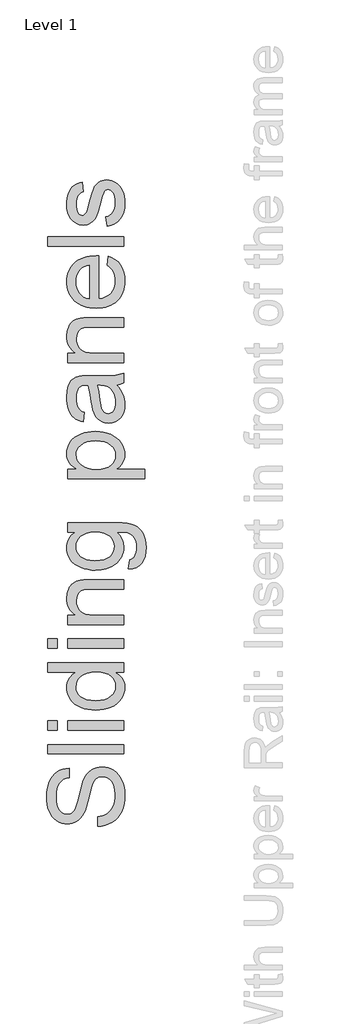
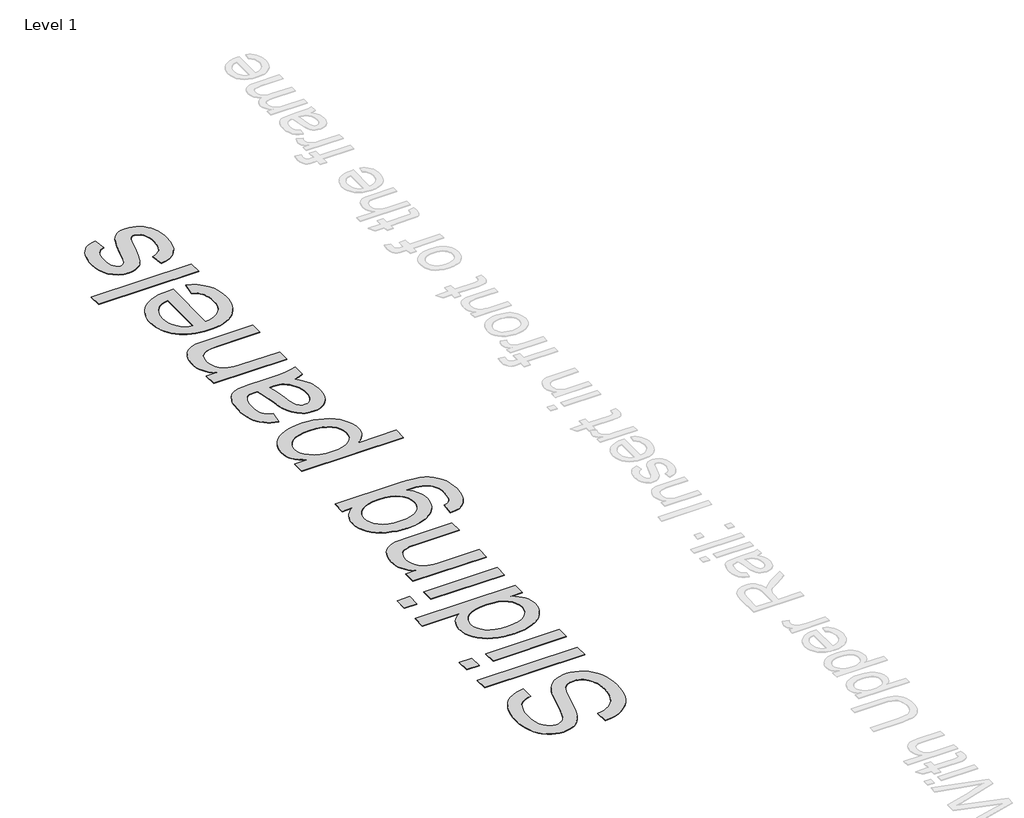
# One storey, part 19 of 80: 1 proxy.
"""IFC4 building model written with IfcOpenShell, lengths in millimetres."""

from ifc_helpers import new_model, si_unit, origin, origin_with_axes, place, context, project, spatial, polyline, outline, extrude, element, save

model = new_model("IFC4")

# Units and contexts
model_context = context("Model", 3, world=origin())
ifc_project = project(units=[si_unit("LENGTHUNIT", "METRE", prefix="MILLI")], contexts=[model_context])

# Site, building, storey
site = spatial("IfcSite", under=ifc_project)
building = spatial("IfcBuilding", under=site)
storey = spatial("IfcBuildingStorey", under=building, Name="Level 1", Elevation=0.0)

# Proxy
placement = place(None, origin())
element("IfcBuildingElementProxy", 1, Name="1000mm Arial", ObjectType="1000mm Arial", at=placement, inside=storey, context=model_context, shape_type="SweptSolid", body=[
    extrude(outline(polyline([(414192.9545821, -59937.1761979), (414192.9545821, -59811.6058102), (414229.5051912, -59805.857654), (414262.6375633, -59797.1970987), (414292.3516987, -59785.6241443), (414318.6475971, -59771.1387908), (414342.0540891, -59753.0052741), (414363.1000049, -59730.4878303), (414381.7853445, -59703.5864594), (414398.1101081, -59672.3011614), (414411.3615241, -59637.7815675), (414420.8268213, -59601.177309), (414426.5059996, -59562.4883858), (414428.399059, -59521.714798), (414422.6662312, -59451.7559053), (414415.5001966, -59420.0414116), (414405.467748, -59390.5035531), (414392.9291033, -59363.8704295), (414378.2444803, -59340.8701406), (414361.4138791, -59321.5026864), (414342.4372995, -59305.7680669), (414322.1348119, -59293.58964), (414301.3264865, -59284.8907636), (414280.0123234, -59279.6714378), (414258.1923226, -59277.9316626), (414216.1618046, -59283.1433242), (414179.8334576, -59298.7783089), (414163.7156277, -59311.9300903), (414148.8393995, -59330.5387879), (414135.2047731, -59354.6044017), (414122.8117483, -59384.1269318), (414103.0994048, -59450.4376615), (414074.8644616, -59566.9642834), (414043.1346396, -59686.9857844), (414027.8445441, -59730.7867344), (414012.9376591, -59763.7811509), (413992.9340756, -59797.3120619), (413970.6925433, -59826.2904332), (413946.2130622, -59850.7162648), (413919.4956323, -59870.5895568), (413890.8161651, -59885.9869511), (413860.4505721, -59896.9850899), (413828.3988533, -59903.5839732), (413794.6610086, -59905.783601), (413757.2673367, -59903.0628071), (413721.1152664, -59894.9004253), (413686.2047979, -59881.2964557), (413652.5359312, -59862.2508982), (413621.4805594, -59837.9783508), (413594.4105759, -59808.6934111), (413571.3259807, -59774.3960793), (413552.2267738, -59735.0863552), (413537.2585751, -59692.090147), (413526.5670047, -59646.7333627), (413520.1520624, -59599.0160023), (413518.0137483, -59548.9380657), (413520.2516971, -59494.3075894), (413526.9655435, -59442.9880511), (413538.1552875, -59394.9794507), (413553.8209291, -59350.2817883), (413573.8245126, -59309.7227983), (413598.0280822, -59274.1302153), (413626.4316379, -59243.5040392), (413659.0351798, -59217.84427), (413694.8883459, -59197.3501772), (413733.0407745, -59182.2210301), (413773.4924655, -59172.4568289), (413816.243419, -59168.0575733), (413816.243419, -59293.627961), (413776.1749384, -59302.0279332), (413741.3181193, -59316.6818994), (413711.6729619, -59337.5898594), (413687.2394661, -59364.7518134), (413668.1402591, -59398.6735991), (413654.4979685, -59439.8610541), (413646.3125941, -59488.3141785), (413643.584136, -59544.0329724), (413646.2819373, -59601.5298626), (413654.3753412, -59650.6574373), (413667.8643476, -59691.4156967), (413686.7489567, -59723.8046407), (413709.4503415, -59748.4833912), (413734.3896751, -59766.1110702), (413761.5669575, -59776.6876775), (413790.9821887, -59780.2132133), (413816.2894043, -59777.7146814), (413839.2360437, -59770.2190858), (413859.822107, -59757.7264263), (413878.0475942, -59740.2367032), (413895.3073912, -59712.7068672), (413912.7511291, -59669.3581054), (413930.378808, -59610.1904179), (413948.190428, -59535.2038045), (413981.8516305, -59396.757547), (413997.0727481, -59348.0438395), (414011.2208765, -59313.0030794), (414032.6653311, -59274.5057615), (414056.7769302, -59241.4193745), (414083.5556738, -59213.7439186), (414113.0015618, -59191.4793937), (414144.9613101, -59174.3652167), (414179.2816346, -59162.1408046), (414215.9625352, -59154.8061573), (414255.0040119, -59152.3612749), (414294.2830791, -59155.1740393), (414332.4125151, -59163.6123326), (414369.3923198, -59177.6761547), (414405.2224933, -59197.3655056), (414438.5158139, -59222.335496), (414467.8850598, -59252.2412366), (414493.3302312, -59287.0827272), (414514.8513279, -59326.8599679), (414531.9655049, -59370.4156633), (414544.189917, -59416.5925179), (414551.5245643, -59465.3905317), (414553.9694467, -59516.8097048), (414551.3329591, -59581.043434), (414543.4234962, -59639.8355753), (414530.241058, -59693.1861288), (414511.7856446, -59741.0950945), (414488.0265991, -59783.8537122), (414458.9332646, -59821.7532219), (414424.5056412, -59854.7936236), (414384.7437289, -59882.9749173), (414340.9351147, -59905.6763021), (414294.3673854, -59922.2769771), (414245.0405412, -59932.7769424), (414192.9545821, -59937.1761979)])), origin_with_axes(), (0.0, 0.0, 1.0), 5.0),
    extrude(outline(polyline([(414538.2731482, -58979.7019918), (413533.7100467, -58979.7019918), (413533.7100467, -58854.1316041), (414538.2731482, -58854.1316041), (414538.2731482, -58979.7019918)])), origin_with_axes(), (0.0, 0.0, 1.0), 5.0),
    extrude(outline(polyline([(413659.2804344, -58665.7760226), (413533.7100467, -58665.7760226), (413533.7100467, -58540.2056349), (413659.2804344, -58540.2056349), (413659.2804344, -58665.7760226)])), origin_with_axes(), (0.0, 0.0, 1.0), 5.0),
    extrude(outline(polyline([(414538.2731482, -58665.7760226), (413800.5471206, -58665.7760226), (413800.5471206, -58540.2056349), (414538.2731482, -58540.2056349), (414538.2731482, -58665.7760226)])), origin_with_axes(), (0.0, 0.0, 1.0), 5.0),
    extrude(outline(polyline([(414538.2731482, -57896.657398), (414419.8151458, -57896.657398), (414451.2575601, -57914.4498574), (414478.5076524, -57934.2273468), (414501.5654229, -57955.989866), (414520.4308715, -57979.7374152), (414535.1039981, -58005.4699944), (414545.5848029, -58033.1876035), (414551.8732857, -58062.8902425), (414553.9694467, -58094.5779114), (414550.9344202, -58136.0259495), (414541.8293409, -58175.757205), (414526.6542086, -58213.7716778), (414505.4090233, -58250.069368), (414478.7299145, -58283.5159728), (414447.2530113, -58312.9771892), (414410.9783137, -58338.4530174), (414369.9058218, -58359.9434573), (414324.8172847, -58377.0039848), (414276.4944518, -58389.1900759), (414224.9373231, -58396.5017305), (414170.1458984, -58398.9389487), (414116.358485, -58396.6933357), (414065.1155888, -58389.9564967), (414016.4172097, -58378.7284316), (413970.2633477, -58363.0091405), (413928.0029035, -58342.8062876), (413890.9847777, -58318.1275371), (413859.2089704, -58288.972889), (413832.6754815, -58255.3423433), (413811.752193, -58218.4238522), (413796.806987, -58179.4053681), (413787.8398633, -58138.286891), (413784.8508221, -58095.0684207), (413786.9891362, -58063.461226), (413793.4040785, -58033.6321275), (413804.095649, -58005.5811254), (413819.0638477, -57979.3082196), (413837.4502832, -57955.10465), (413858.3965643, -57933.2616565), (413881.902691, -57913.7792392), (413907.9686632, -57896.657398), (413533.7100467, -57896.657398), (413533.7100467, -57771.0870103), (414538.2731482, -57771.0870103), (414538.2731482, -57896.657398)]), holes=[polyline([(414169.6553891, -58273.3685611), (414230.5475235, -58269.8276969), (414283.2389551, -58259.2051042), (414327.7296839, -58241.5007832), (414364.0197099, -58216.7147338), (414392.1856751, -58187.1155616), (414412.3042217, -58154.9718723), (414424.3753497, -58120.2836658), (414428.399059, -58083.0509422), (414424.5592907, -58045.6419418), (414413.0399857, -58011.160669), (414393.8411441, -57979.6071237), (414366.9627658, -57950.981306), (414332.1902531, -57927.2145962), (414289.309008, -57910.238375), (414238.3190306, -57900.0526422), (414179.2203209, -57896.657398), (414114.4271045, -57900.1139559), (414058.8615949, -57910.4836296), (414012.5237919, -57927.7664192), (413975.4136956, -57951.9623246), (413946.9794831, -57981.2166074), (413926.6693313, -58013.6745293), (413914.4832402, -58049.3360902), (413910.4212098, -58088.2012902), (413914.3222918, -58126.1697777), (413926.0255378, -58160.8579842), (413945.5309477, -58192.2659095), (413972.8385216, -58220.3935538), (414008.5460678, -58243.5701194), (414053.2513944, -58260.1248092), (414106.9545015, -58270.0576231), (414169.6553891, -58273.3685611)])]), origin_with_axes(), (0.0, 0.0, 1.0), 5.0),
    extrude(outline(polyline([(414538.2731482, -57582.7314288), (413800.5471206, -57582.7314288), (413800.5471206, -57457.1610411), (414538.2731482, -57457.1610411), (414538.2731482, -57582.7314288)])), origin_with_axes(), (0.0, 0.0, 1.0), 5.0),
    extrude(outline(polyline([(413659.2804344, -57582.7314288), (413533.7100467, -57582.7314288), (413533.7100467, -57457.1610411), (413659.2804344, -57457.1610411), (413659.2804344, -57582.7314288)])), origin_with_axes(), (0.0, 0.0, 1.0), 5.0),
    extrude(outline(polyline([(414538.2731482, -57268.8054596), (413800.5471206, -57268.8054596), (413800.5471206, -57143.2350719), (413903.5540792, -57143.2350719), (413875.7330033, -57122.518717), (413851.6214042, -57099.6103986), (413831.2192819, -57074.5101167), (413814.5266364, -57047.2178711), (413801.5434676, -57017.7336621), (413792.2697757, -56986.0574894), (413786.7055605, -56952.1893533), (413784.8508221, -56916.1292535), (413790.8289045, -56854.2331078), (413798.3015076, -56825.2394081), (413808.7631518, -56797.5486237), (413821.65435, -56772.2107513), (413836.4156151, -56750.2757874), (413853.046947, -56731.7437319), (413871.5483456, -56716.6145848), (413914.0693729, -56693.7752443), (413963.8867264, -56678.967994), (414011.5274448, -56674.001587), (414085.2877848, -56672.346118), (414538.2731482, -56672.346118), (414538.2731482, -56797.9165057), (414102.2103566, -56797.9165057), (414037.2791845, -56801.534012), (413991.1099941, -56812.3865309), (413973.6432635, -56821.0087651), (413958.0312713, -56832.4054428), (413944.2740176, -56846.5765638), (413932.3715022, -56863.5221282), (413915.9087829, -56903.4066679), (413910.4212098, -56949.7291424), (413913.5022215, -56987.8585784), (413922.7452566, -57023.2748846), (413938.1503152, -57055.9780611), (413959.7173972, -57085.968108), (413989.8990492, -57111.0224047), (414031.1478179, -57128.9183309), (414083.4637033, -57139.6558866), (414146.8467054, -57143.2350719), (414538.2731482, -57143.2350719), (414538.2731482, -57268.8054596)])), origin_with_axes(), (0.0, 0.0, 1.0), 5.0),
    extrude(outline(polyline([(414601.0583421, -56531.0794319), (414616.7546405, -56405.5090442), (414637.9078553, -56400.2054121), (414655.9953867, -56391.6521557), (414671.0172348, -56379.849275), (414682.9733997, -56364.7967701), (414695.205476, -56340.4399163), (414703.9426734, -56312.0057038), (414709.1849918, -56279.4941324), (414710.9324313, -56242.9052023), (414708.9550656, -56203.695113), (414703.0229684, -56169.206176), (414693.1361398, -56139.4383912), (414679.2945797, -56114.3917587), (414661.8814986, -56093.5451123), (414641.2801069, -56076.3772859), (414617.4904045, -56062.8882794), (414590.5123915, -56053.0780928), (414536.4950519, -56046.2722759), (414444.0953575, -56044.4941796), (414485.2981409, -56086.2794429), (414514.7287005, -56132.9084858), (414525.0293964, -56158.0394246), (414532.3870363, -56184.3813083), (414538.2731482, -56240.6979104), (414536.5601977, -56276.1506216), (414531.4213461, -56309.5454929), (414522.8565934, -56340.8825243), (414510.8659396, -56370.1617158), (414495.4493847, -56397.3830674), (414476.6069288, -56422.5465791), (414454.3385718, -56445.6522509), (414428.6443137, -56466.7000827), (414371.1014383, -56501.7331786), (414308.1016466, -56526.7568185), (414239.6449386, -56541.7710024), (414165.7313145, -56546.7757304), (414114.0209015, -56544.5301173), (414064.3491679, -56537.7932783), (414016.7161138, -56526.5652133), (413971.121739, -56510.8459222), (413929.0835568, -56490.8729955), (413892.1190805, -56466.8840237), (413860.2283101, -56438.8790069), (413833.4112455, -56406.8579449), (413812.1660603, -56371.3343397), (413796.990928, -56332.8216933), (413787.8858486, -56291.3200058), (413784.8508221, -56246.829277), (413786.5676048, -56216.7894128), (413791.7179527, -56188.1061135), (413800.3018659, -56160.779379), (413812.3193444, -56134.8092094), (413827.7703882, -56110.1956047), (413846.6549973, -56086.9385648), (413868.9731717, -56065.0380898), (413894.7249113, -56044.4941796), (413800.5471206, -56044.4941796), (413800.5471206, -55918.9237919), (414437.4734816, -55918.9237919), (414517.2808819, -55921.0697702), (414584.5343091, -55927.5077051), (414639.2337633, -55938.2375967), (414681.3792444, -55953.2594448), (414715.3700079, -55972.9334673), (414745.6053093, -55997.6198821), (414772.0851488, -56027.318689), (414794.8095262, -56062.029888), (414813.0503418, -56101.4009257), (414826.0794958, -56145.0792485), (414833.8969882, -56193.0648562), (414836.502819, -56245.357749), (414832.8316632, -56306.8783485), (414821.818196, -56362.1909393), (414803.4624173, -56411.2955214), (414777.7643271, -56454.1920949), (414744.6932686, -56488.8419803), (414704.2185849, -56513.2064983), (414656.3402761, -56527.2856488), (414601.0583421, -56531.0794319)]), holes=[polyline([(414157.1474012, -56421.2053427), (414219.2351521, -56417.8560837), (414272.3251226, -56407.8083067), (414316.4173125, -56391.0620117), (414351.511722, -56367.6171987), (414378.2828014, -56339.1140083), (414397.4050009, -56307.192581), (414408.8783206, -56271.8529168), (414412.7027605, -56233.0950158), (414408.9013133, -56194.7203252), (414397.4969714, -56159.5492736), (414378.489735, -56127.5818611), (414351.879604, -56098.8180876), (414317.1300839, -56075.0513778), (414273.70468, -56058.0751566), (414221.6033925, -56047.8894239), (414160.8262212, -56044.4941796), (414102.5859028, -56047.9890586), (414051.9638074, -56058.4736954), (414008.959935, -56075.9480902), (413973.5742856, -56100.4122429), (413945.944815, -56129.7968172), (413926.2094788, -56162.0324771), (413914.368277, -56197.1192224), (413910.4212098, -56235.0570531), (413914.3069634, -56272.3587546), (413925.9642241, -56306.7633853), (413945.392992, -56338.2709454), (413972.593267, -56366.8814347), (414007.4424218, -56390.6481444), (414049.8178291, -56407.6243657), (414099.7194889, -56417.8100984), (414157.1474012, -56421.2053427)])]), origin_with_axes(), (0.0, 0.0, 1.0), 5.0),
    extrude(outline(polyline([(414820.8065205, -55338.1607489), (413800.5471206, -55338.1607489), (413800.5471206, -55212.5903612), (413923.6649616, -55212.5903612), (413891.1303977, -55192.7247334), (413862.9337756, -55171.6328324), (413839.0750954, -55149.314658), (413819.554357, -55125.7702103), (413804.3715605, -55100.325039), (413793.5267058, -55072.3046937), (413787.019793, -55041.7091744), (413784.8508221, -55008.5384812), (413787.8858486, -54964.7451954), (413796.990928, -54923.619054), (413812.1660603, -54885.1600571), (413833.4112455, -54849.3682046), (413860.1746606, -54817.0252459), (413891.9044827, -54788.9129301), (413928.6007117, -54765.0312572), (413970.2633477, -54745.3802273), (414015.4668478, -54730.0364824), (414062.7856695, -54719.0766647), (414112.2198126, -54712.500774), (414163.7692771, -54710.3088104), (414218.8825985, -54712.7843497), (414271.1601629, -54720.2109675), (414320.6019702, -54732.5886638), (414367.2080205, -54749.9174386), (414409.7597046, -54771.9597015), (414447.0384134, -54798.4778619), (414479.044147, -54829.47192), (414505.7769053, -54864.9418757), (414526.8611422, -54903.1479538), (414541.9213114, -54942.3503789), (414550.9574129, -54982.5491511), (414553.9694467, -55023.7442703), (414551.9537599, -55053.3817636), (414545.9066996, -55081.4710867), (414535.8282658, -55108.0122398), (414521.7184585, -55133.0052229), (414485.2061704, -55177.1204055), (414440.1712829, -55212.5903612), (414820.8065205, -55212.5903612), (414820.8065205, -55338.1607489)]), holes=[polyline([(414175.2962463, -55212.5903612), (414235.8128345, -55209.1951169), (414287.8681369, -55199.0093842), (414331.4621533, -55182.033163), (414366.5948838, -55158.2664532), (414393.6342105, -55129.6559639), (414412.9480152, -55098.1484039), (414424.5362981, -55063.7437731), (414428.399059, -55026.4420716), (414424.3983423, -54988.6038756), (414412.3961922, -54953.5707797), (414392.3926087, -54921.3427841), (414364.3875918, -54891.9198887), (414327.9826027, -54867.4020866), (414282.7791026, -54849.8893708), (414228.7770914, -54839.3817413), (414165.9765691, -54835.8791981), (414105.9811471, -54839.297435), (414054.0178152, -54849.5521456), (414010.0865737, -54866.64333), (413974.1874223, -54890.5709881), (413946.2897043, -54919.2504553), (413926.3627629, -54950.597067), (413914.4065981, -54984.6108231), (413910.4212098, -55021.2917237), (413914.659517, -55057.8576612), (413927.3744384, -55092.2622919), (413948.5659742, -55124.505616), (413978.2341242, -55154.5876333), (414015.9803498, -55179.9638267), (414061.406112, -55198.0896792), (414114.5114108, -55208.9651907), (414175.2962463, -55212.5903612)])]), origin_with_axes(), (0.0, 0.0, 1.0), 5.0),
    extrude(outline(polyline([(414444.0953575, -54098.1531705), (414472.0390607, -54127.9286194), (414495.5375231, -54158.1485925), (414514.5907448, -54188.8130897), (414529.1987257, -54219.9221109), (414540.0359161, -54251.8282097), (414547.7767664, -54284.8839398), (414552.4212766, -54319.0893012), (414553.9694467, -54354.4442938), (414550.2446415, -54410.3546928), (414539.0702259, -54459.3826329), (414520.4461999, -54501.528114), (414494.3725635, -54536.791136), (414462.5047856, -54564.6352046), (414426.4983354, -54584.5238249), (414386.3532126, -54596.4569971), (414342.0694175, -54600.4347212), (414290.0141152, -54594.425982), (414265.7798887, -54586.9150579), (414242.7412788, -54576.3997642), (414202.2742593, -54548.5940167), (414170.6364077, -54513.2466884), (414146.724078, -54471.7066797), (414129.4336243, -54425.3228915), (414119.8073787, -54380.1347198), (414110.5490152, -54316.6750756), (414090.6833874, -54188.2842593), (414079.4629866, -54138.7121604), (414067.3841944, -54098.8889345), (414039.4251628, -54098.1531705), (414008.9829277, -54100.3144772), (413983.3844722, -54106.7983974), (413962.6297963, -54117.604931), (413946.7189, -54132.734078), (413930.8386605, -54158.8843565), (413919.4956323, -54190.7368059), (413912.6898154, -54228.2914263), (413910.4212098, -54271.5482175), (413911.9310588, -54311.7699823), (413916.4606059, -54346.3508899), (413924.009851, -54375.2909402), (413934.5787941, -54398.5901332), (413948.9951698, -54417.7353254), (413968.0867125, -54434.2133731), (413991.8534223, -54448.0242763), (414020.295299, -54459.1680351), (414004.5990006, -54584.7384228), (413968.4239377, -54575.1811551), (413935.9276948, -54562.9414145), (413907.1102718, -54548.0192011), (413881.9716688, -54530.4145148), (413860.006048, -54509.368599), (413840.7075717, -54484.1226971), (413824.0762398, -54454.676809), (413810.1120524, -54421.0309349), (413799.0602642, -54383.8671892), (413791.1661297, -54343.8676864), (413786.429649, -54301.0324266), (413784.8508221, -54255.3614097), (413790.4303657, -54170.4726393), (413797.4047952, -54134.6271374), (413807.1689965, -54103.1808911), (413832.3382563, -54052.4438326), (413847.0612003, -54032.8924374), (413863.2096871, -54017.2191315), (413901.3774441, -53993.8586248), (413948.4356826, -53978.7141494), (413991.8457581, -53974.1156244), (414058.3097719, -53972.5827828), (414214.5369925, -53972.5827828), (414350.6226739, -53970.9886275), (414432.6910156, -53966.2061615), (414486.6163847, -53956.763857), (414538.2731482, -53941.1901859), (414538.2731482, -54066.7605735), (414494.6178181, -54086.8714559), (414444.0953575, -54098.1531705)]), holes=[polyline([(414192.9545821, -54098.1531705), (414213.8625422, -54182.5207747), (414231.4595643, -54300.7335225), (414241.0858098, -54365.8792925), (414251.8157013, -54408.7682017), (414265.7339035, -54436.8805175), (414284.9250809, -54457.6965071), (414307.9177056, -54470.5723769), (414333.2402496, -54474.8643335), (414352.7533237, -54472.52675), (414370.5802721, -54465.5139995), (414386.7210946, -54453.8260819), (414401.1757914, -54437.4629973), (414413.085971, -54416.5780299), (414421.5932421, -54391.3244638), (414426.6976048, -54361.702299), (414428.399059, -54327.7115355), (414426.521328, -54293.0080006), (414420.8881349, -54260.266503), (414411.4994799, -54229.4870427), (414398.3553627, -54200.6696198), (414382.5441012, -54174.6726255), (414365.1540127, -54152.3544511), (414346.1850973, -54133.7150967), (414325.637355, -54118.7545622), (414307.2432553, -54110.0633501), (414284.9250809, -54103.8553414), (414228.5165083, -54098.8889345), (414192.9545821, -54098.1531705)])]), origin_with_axes(), (0.0, 0.0, 1.0), 5.0),
    extrude(outline(polyline([(414538.2731482, -53799.9234997), (413800.5471206, -53799.9234997), (413800.5471206, -53674.353112), (413903.5540792, -53674.353112), (413875.7330033, -53653.6367572), (413851.6214042, -53630.7284388), (413831.2192819, -53605.6281568), (413814.5266364, -53578.3359113), (413801.5434676, -53548.8517022), (413792.2697757, -53517.1755296), (413786.7055605, -53483.3073934), (413784.8508221, -53447.2472937), (413790.8289045, -53385.351148), (413798.3015076, -53356.3574482), (413808.7631518, -53328.6666639), (413821.65435, -53303.3287915), (413836.4156151, -53281.3938275), (413853.046947, -53262.861772), (413871.5483456, -53247.7326249), (413914.0693729, -53224.8932844), (413963.8867264, -53210.0860341), (414011.5274448, -53205.1196272), (414085.2877848, -53203.4641582), (414538.2731482, -53203.4641582), (414538.2731482, -53329.0345459), (414102.2103566, -53329.0345459), (414037.2791845, -53332.6520522), (413991.1099941, -53343.504571), (413973.6432635, -53352.1268053), (413958.0312713, -53363.5234829), (413944.2740176, -53377.694604), (413932.3715022, -53394.6401684), (413915.9087829, -53434.524708), (413910.4212098, -53480.8471826), (413913.5022215, -53518.9766185), (413922.7452566, -53554.3929248), (413938.1503152, -53587.0961013), (413959.7173972, -53617.0861481), (413989.8990492, -53642.1404448), (414031.1478179, -53660.036371), (414083.4637033, -53670.7739268), (414146.8467054, -53674.353112), (414538.2731482, -53674.353112), (414538.2731482, -53799.9234997)])), origin_with_axes(), (0.0, 0.0, 1.0), 5.0),
    extrude(outline(polyline([(414318.5249698, -52514.2985539), (414334.2212682, -52391.1807128), (414383.532784, -52410.0576577), (414426.9888447, -52435.5411501), (414464.5894503, -52467.63119), (414496.3346008, -52506.3277773), (414521.5498459, -52551.2323734), (414539.5607352, -52601.9464392), (414550.3672688, -52658.469975), (414553.9694467, -52720.8029805), (414552.4155285, -52760.8216438), (414547.7537738, -52798.7173214), (414539.9841827, -52834.4900133), (414529.1067552, -52868.1397196), (414515.1214912, -52899.6664402), (414498.0283908, -52929.070175), (414477.827454, -52956.3509242), (414454.5186807, -52981.5086878), (414428.4048072, -53004.0989415), (414399.7885697, -53023.6771615), (414368.6699682, -53040.2433476), (414335.0490027, -53053.7974998), (414298.9256733, -53064.3396182), (414260.2999798, -53071.8697028), (414219.1719224, -53076.3877536), (414175.541501, -53077.8937705), (414130.4261392, -53076.3724252), (414087.9089441, -53071.8083892), (414047.9899155, -53064.2016625), (414010.6690535, -53053.5522452), (413975.9463581, -53039.8601372), (413943.8218293, -53023.1253385), (413914.2954671, -53003.3478491), (413887.3672714, -52980.5276691), (413863.3399786, -52955.2817672), (413842.5163249, -52928.2271121), (413824.8963101, -52899.3637039), (413810.4799344, -52868.6915426), (413799.2671978, -52836.2106281), (413791.2581002, -52801.9209605), (413786.4526416, -52765.8225397), (413784.8508221, -52727.9153658), (413786.4488095, -52691.2478775), (413791.2427718, -52656.2933398), (413799.2327089, -52623.0517527), (413810.4186208, -52591.5231161), (413824.8005075, -52561.70743), (413842.3783691, -52533.6046944), (413863.1522055, -52507.2149094), (413887.1220168, -52482.538075), (413913.9888987, -52460.2064882), (413943.4539473, -52440.8524464), (413975.5171624, -52424.4759495), (414010.1785442, -52411.0769974), (414047.4380925, -52400.6555903), (414087.2958074, -52393.211728), (414174.805737, -52387.2566382), (414208.6508806, -52387.9924022), (414208.6508806, -52952.3233828), (414258.759474, -52945.0500492), (414302.6447303, -52930.5876883), (414340.3066496, -52908.9363), (414371.7452318, -52880.0958844), (414396.5312812, -52845.6605968), (414414.2356022, -52807.2245926), (414424.8581948, -52764.7878716), (414428.399059, -52718.3504339), (414426.7589184, -52683.6162422), (414421.8384968, -52651.5185381), (414413.637794, -52622.0573217), (414402.15681, -52595.2325928), (414387.0889766, -52571.0443517), (414368.1277255, -52549.4925981), (414345.2730565, -52530.5773322), (414318.5249698, -52514.2985539)]), holes=[polyline([(414083.0804929, -52952.3233828), (414083.0804929, -52512.8270259), (414047.5492235, -52519.2802892), (414016.7391064, -52529.8109114), (413990.6501416, -52544.4188923), (413969.282329, -52563.1042319), (413943.5305894, -52597.3479143), (413925.1364896, -52636.312749), (413914.1000298, -52679.9987359), (413910.4212098, -52728.4058751), (413913.3566016, -52772.5593787), (413922.1627768, -52813.0493908), (413936.8397356, -52849.8759114), (413957.3874778, -52883.0389404), (413982.8556418, -52910.8676805), (414012.2938656, -52931.6913343), (414045.7021493, -52945.5099017), (414083.0804929, -52952.3233828)])]), origin_with_axes(), (0.0, 0.0, 1.0), 5.0),
    extrude(outline(polyline([(414538.2731482, -52261.6862505), (413533.7100467, -52261.6862505), (413533.7100467, -52136.1158629), (414538.2731482, -52136.1158629), (414538.2731482, -52261.6862505)])), origin_with_axes(), (0.0, 0.0, 1.0), 5.0),
    extrude(outline(polyline([(414318.5249698, -51994.8491767), (414302.8286713, -51869.278789), (414331.4621533, -51861.6912229), (414356.5394426, -51849.4744749), (414378.0605393, -51832.6285453), (414396.0254434, -51811.1534338), (414410.1889002, -51784.9878269), (414420.3056551, -51754.0704109), (414426.375708, -51718.4011857), (414428.399059, -51677.9801515), (414426.5443206, -51637.6051026), (414420.9801054, -51602.8095972), (414411.7064135, -51573.5936354), (414398.7232447, -51549.9572172), (414383.2415441, -51531.7164016), (414366.4722565, -51518.6872476), (414348.4153819, -51510.8697552), (414329.0709203, -51508.2639244), (414312.1176917, -51510.8850836), (414297.0651867, -51518.7485613), (414283.9134054, -51531.8543574), (414272.6623477, -51550.2024719), (414256.7207946, -51597.2300536), (414236.8551669, -51679.4516795), (414203.7151305, -51794.046921), (414175.4188737, -51868.543025), (414161.2324242, -51894.1184879), (414144.5474429, -51916.3983412), (414125.3639297, -51935.382585), (414103.6818846, -51951.0712193), (414080.1527653, -51963.3569451), (414055.4280296, -51972.1324635), (414029.5076773, -51977.3977746), (414002.3917086, -51979.1528782), (413953.7393147, -51973.512021), (413908.8270545, -51956.5894492), (413869.4330242, -51929.9180046), (413837.3353201, -51895.0305287), (413817.1324672, -51860.3576506), (413800.1792386, -51815.2001357), (413788.6829262, -51762.9915492), (413784.8508221, -51707.1654565), (413786.391328, -51664.9663259), (413791.0128455, -51625.4343399), (413798.7153748, -51588.5694983), (413809.4989158, -51554.3718011), (413822.9112802, -51523.6536546), (413838.5002797, -51497.2274646), (413856.2659144, -51475.0932312), (413876.2081842, -51457.2509544), (413899.0245322, -51442.7809293), (413925.4124011, -51430.7634508), (413955.3717911, -51421.1985189), (413988.9027021, -51414.0861337), (414004.5990006, -51539.6565213), (413983.6220626, -51545.642268), (413965.0823429, -51555.506104), (413948.9798414, -51569.2480293), (413935.3145581, -51586.8680441), (413924.4237182, -51608.4427902), (413916.6445469, -51634.0489099), (413911.9770441, -51663.6864032), (413910.4212098, -51697.3552699), (413911.9080662, -51736.4120751), (413916.3686354, -51769.460141), (413923.8029174, -51796.4994676), (413934.2109122, -51817.530055), (413946.5962727, -51833.3029956), (413959.9626518, -51844.5693817), (413974.3100496, -51851.3292133), (413989.6384661, -51853.5824906), (414008.9522708, -51849.8423569), (414026.1814109, -51838.6219561), (414041.5711411, -51819.4307787), (414053.8951879, -51791.7783154), (414080.6279462, -51683.6210088), (414113.4307575, -51572.6739304), (414139.7343201, -51499.3121292), (414152.5642047, -51473.4990759), (414167.9999201, -51450.6290785), (414186.0414663, -51430.7021371), (414206.6888432, -51413.7182517), (414229.9727079, -51400.1449389), (414255.9237169, -51390.4497155), (414284.5418705, -51384.6325814), (414315.8271685, -51382.6935367), (414347.2504222, -51384.9698066), (414377.753971, -51391.7986161), (414407.3378148, -51403.1799653), (414436.0019536, -51419.1138543), (414462.6044204, -51439.3396998), (414486.0032481, -51463.5969188), (414506.1984368, -51491.8855114), (414523.1899864, -51524.2054775), (414536.6560003, -51559.6754332), (414546.2745816, -51597.4139946), (414552.0457304, -51637.4211616), (414553.9694467, -51679.6969342), (414550.2599699, -51747.2799224), (414539.1315396, -51806.3096542), (414520.5841556, -51856.7861296), (414494.6178181, -51898.7093486), (414461.3551544, -51932.953031), (414420.9187918, -51960.3908965), (414373.3087302, -51981.0229451), (414318.5249698, -51994.8491767)])), origin_with_axes(), (0.0, 0.0, 1.0), 5.0),
])

save(model, "model.ifc")
